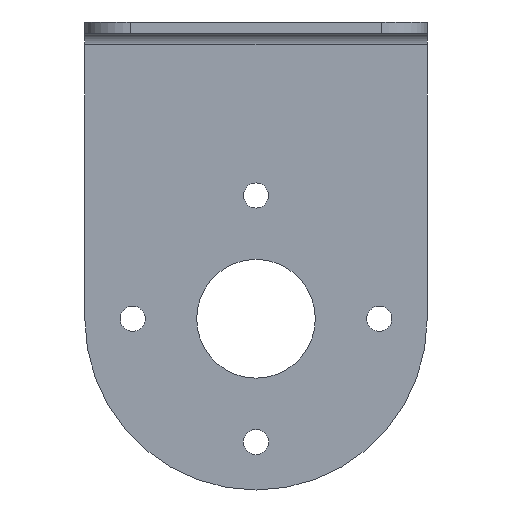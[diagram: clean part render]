
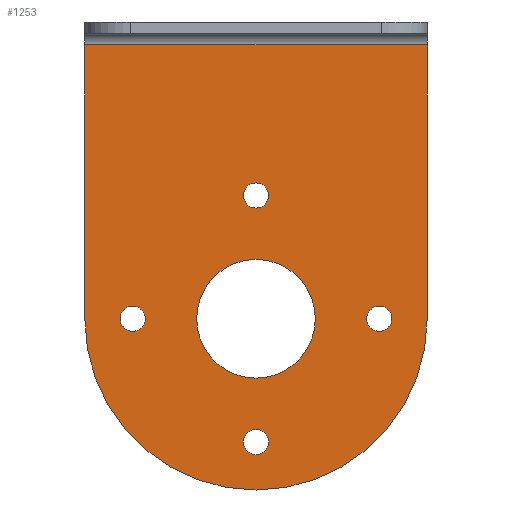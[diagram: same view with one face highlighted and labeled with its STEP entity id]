
A CAD part, front view. The second image highlights one B-rep face of the part: STEP entity #1253.
In plain terms, the highlighted planar face has unit normal (0, -1, 0).
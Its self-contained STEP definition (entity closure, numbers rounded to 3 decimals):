
#34 = LINE ( 'NONE', #1170, #172 ) ;
#48 = FACE_BOUND ( 'NONE', #1209, .T. ) ;
#57 = CIRCLE ( 'NONE', #414, 2.75 ) ;
#64 = VERTEX_POINT ( 'NONE', #397 ) ;
#68 = ORIENTED_EDGE ( 'NONE', *, *, #252, .T. ) ;
#95 = CARTESIAN_POINT ( 'NONE',  ( -27., 82.5, -62.25 ) ) ;
#99 = DIRECTION ( 'NONE',  ( 0., 0., 1. ) ) ;
#102 = CARTESIAN_POINT ( 'NONE',  ( 0., 82.5, -65. ) ) ;
#109 = DIRECTION ( 'NONE',  ( 0., 1., 0. ) ) ;
#112 = DIRECTION ( 'NONE',  ( 0., 0., 1. ) ) ;
#116 = DIRECTION ( 'NONE',  ( 0., 1., 0. ) ) ;
#125 = DIRECTION ( 'NONE',  ( 0., 0., 1. ) ) ;
#130 = DIRECTION ( 'NONE',  ( 0., 1., 0. ) ) ;
#135 = VERTEX_POINT ( 'NONE', #976 ) ;
#152 = DIRECTION ( 'NONE',  ( 0., 0., -1. ) ) ;
#167 = CARTESIAN_POINT ( 'NONE',  ( 0., 82.5, -89.25 ) ) ;
#172 = VECTOR ( 'NONE', #152, 1000. ) ;
#174 = EDGE_CURVE ( 'NONE', #1337, #1329, #227, .T. ) ;
#177 = EDGE_CURVE ( 'NONE', #1163, #1114, #1223, .T. ) ;
#223 = ORIENTED_EDGE ( 'NONE', *, *, #174, .F. ) ;
#227 = CIRCLE ( 'NONE', #1048, 37.5 ) ;
#228 = DIRECTION ( 'NONE',  ( 0., 0., 1. ) ) ;
#230 = CARTESIAN_POINT ( 'NONE',  ( 27., 82.5, -65. ) ) ;
#232 = AXIS2_PLACEMENT_3D ( 'NONE', #473, #1358, #112 ) ;
#240 = LINE ( 'NONE', #359, #1226 ) ;
#244 = CARTESIAN_POINT ( 'NONE',  ( 0., 82.5, -65. ) ) ;
#252 = EDGE_CURVE ( 'NONE', #1234, #64, #325, .T. ) ;
#276 = DIRECTION ( 'NONE',  ( 1., 0., 0. ) ) ;
#314 = EDGE_LOOP ( 'NONE', ( #1067, #68 ) ) ;
#321 = FACE_OUTER_BOUND ( 'NONE', #864, .T. ) ;
#325 = CIRCLE ( 'NONE', #603, 2.75 ) ;
#326 = AXIS2_PLACEMENT_3D ( 'NONE', #1133, #116, #1012 ) ;
#339 = VERTEX_POINT ( 'NONE', #1275 ) ;
#347 = CARTESIAN_POINT ( 'NONE',  ( 0., 82.5, -38. ) ) ;
#349 = CIRCLE ( 'NONE', #1264, 2.75 ) ;
#353 = CARTESIAN_POINT ( 'NONE',  ( -27., 82.5, -65. ) ) ;
#359 = CARTESIAN_POINT ( 'NONE',  ( -37.5, 82.5, -5. ) ) ;
#386 = CIRCLE ( 'NONE', #778, 2.75 ) ;
#397 = CARTESIAN_POINT ( 'NONE',  ( -27., 82.5, -67.75 ) ) ;
#410 = EDGE_CURVE ( 'NONE', #906, #1337, #34, .T. ) ;
#414 = AXIS2_PLACEMENT_3D ( 'NONE', #1340, #130, #581 ) ;
#415 = AXIS2_PLACEMENT_3D ( 'NONE', #102, #787, #729 ) ;
#424 = DIRECTION ( 'NONE',  ( 0., 0., 1. ) ) ;
#425 = CARTESIAN_POINT ( 'NONE',  ( 0., 82.5, -102.5 ) ) ;
#430 = DIRECTION ( 'NONE',  ( 0., 0., 1. ) ) ;
#450 = CARTESIAN_POINT ( 'NONE',  ( 0., 82.5, -94.75 ) ) ;
#473 = CARTESIAN_POINT ( 'NONE',  ( 0., 82.5, -38. ) ) ;
#516 = DIRECTION ( 'NONE',  ( 0., 1., 0. ) ) ;
#538 = CARTESIAN_POINT ( 'NONE',  ( 37.5, 82.5, -65. ) ) ;
#540 = CARTESIAN_POINT ( 'NONE',  ( 0., 82.5, -65. ) ) ;
#542 = ORIENTED_EDGE ( 'NONE', *, *, #973, .F. ) ;
#553 = DIRECTION ( 'NONE',  ( 0., 0., 1. ) ) ;
#557 = FACE_BOUND ( 'NONE', #314, .T. ) ;
#576 = EDGE_CURVE ( 'NONE', #135, #613, #1333, .T. ) ;
#581 = DIRECTION ( 'NONE',  ( 0., 0., 1. ) ) ;
#603 = AXIS2_PLACEMENT_3D ( 'NONE', #353, #920, #807 ) ;
#613 = VERTEX_POINT ( 'NONE', #794 ) ;
#625 = EDGE_CURVE ( 'NONE', #339, #1297, #1074, .T. ) ;
#642 = CARTESIAN_POINT ( 'NONE',  ( 0., 82.5, -40.75 ) ) ;
#649 = DIRECTION ( 'NONE',  ( 0., 1., 0. ) ) ;
#676 = DIRECTION ( 'NONE',  ( 0., 1., 0. ) ) ;
#688 = ORIENTED_EDGE ( 'NONE', *, *, #576, .F. ) ;
#690 = CARTESIAN_POINT ( 'NONE',  ( 37.5, 82.5, -5. ) ) ;
#703 = ORIENTED_EDGE ( 'NONE', *, *, #177, .T. ) ;
#719 = VECTOR ( 'NONE', #430, 1000. ) ;
#729 = DIRECTION ( 'NONE',  ( 0., 0., 1. ) ) ;
#730 = ORIENTED_EDGE ( 'NONE', *, *, #734, .T. ) ;
#734 = EDGE_CURVE ( 'NONE', #1297, #339, #1197, .T. ) ;
#740 = EDGE_CURVE ( 'NONE', #64, #1234, #349, .T. ) ;
#756 = EDGE_LOOP ( 'NONE', ( #930, #855 ) ) ;
#767 = ORIENTED_EDGE ( 'NONE', *, *, #872, .T. ) ;
#775 = CIRCLE ( 'NONE', #1249, 37.5 ) ;
#778 = AXIS2_PLACEMENT_3D ( 'NONE', #1102, #516, #970 ) ;
#787 = DIRECTION ( 'NONE',  ( 0., 1., 0. ) ) ;
#791 = EDGE_LOOP ( 'NONE', ( #703, #767 ) ) ;
#794 = CARTESIAN_POINT ( 'NONE',  ( -37.5, 82.5, -5. ) ) ;
#807 = DIRECTION ( 'NONE',  ( 0., 0., 1. ) ) ;
#821 = CIRCLE ( 'NONE', #1134, 2.75 ) ;
#835 = ORIENTED_EDGE ( 'NONE', *, *, #1441, .T. ) ;
#855 = ORIENTED_EDGE ( 'NONE', *, *, #904, .T. ) ;
#864 = EDGE_LOOP ( 'NONE', ( #542, #688, #1185, #223, #961 ) ) ;
#867 = CIRCLE ( 'NONE', #232, 2.75 ) ;
#870 = AXIS2_PLACEMENT_3D ( 'NONE', #230, #109, #99 ) ;
#872 = EDGE_CURVE ( 'NONE', #1114, #1163, #867, .T. ) ;
#880 = EDGE_CURVE ( 'NONE', #1329, #135, #775, .T. ) ;
#896 = PLANE ( 'NONE',  #415 ) ;
#898 = CARTESIAN_POINT ( 'NONE',  ( -37.5, 82.5, -2.5 ) ) ;
#904 = EDGE_CURVE ( 'NONE', #1187, #1444, #57, .T. ) ;
#905 = FACE_BOUND ( 'NONE', #791, .T. ) ;
#906 = VERTEX_POINT ( 'NONE', #690 ) ;
#920 = DIRECTION ( 'NONE',  ( 0., 1., 0. ) ) ;
#930 = ORIENTED_EDGE ( 'NONE', *, *, #1177, .T. ) ;
#952 = AXIS2_PLACEMENT_3D ( 'NONE', #347, #676, #553 ) ;
#961 = ORIENTED_EDGE ( 'NONE', *, *, #410, .F. ) ;
#965 = DIRECTION ( 'NONE',  ( 0., 0., 1. ) ) ;
#970 = DIRECTION ( 'NONE',  ( 0., 0., 1. ) ) ;
#973 = EDGE_CURVE ( 'NONE', #613, #906, #240, .T. ) ;
#976 = CARTESIAN_POINT ( 'NONE',  ( -37.5, 82.5, -65. ) ) ;
#977 = CARTESIAN_POINT ( 'NONE',  ( 27., 82.5, -67.75 ) ) ;
#979 = CARTESIAN_POINT ( 'NONE',  ( 0., 82.5, -78. ) ) ;
#991 = DIRECTION ( 'NONE',  ( 0., 1., 0. ) ) ;
#1012 = DIRECTION ( 'NONE',  ( 0., 0., 1. ) ) ;
#1014 = CIRCLE ( 'NONE', #870, 2.75 ) ;
#1046 = CARTESIAN_POINT ( 'NONE',  ( 0., 82.5, -35.25 ) ) ;
#1048 = AXIS2_PLACEMENT_3D ( 'NONE', #1238, #1369, #228 ) ;
#1067 = ORIENTED_EDGE ( 'NONE', *, *, #740, .T. ) ;
#1074 = CIRCLE ( 'NONE', #326, 13. ) ;
#1088 = ORIENTED_EDGE ( 'NONE', *, *, #625, .T. ) ;
#1102 = CARTESIAN_POINT ( 'NONE',  ( 27., 82.5, -65. ) ) ;
#1114 = VERTEX_POINT ( 'NONE', #1046 ) ;
#1122 = DIRECTION ( 'NONE',  ( 0., 1., 0. ) ) ;
#1128 = VERTEX_POINT ( 'NONE', #977 ) ;
#1133 = CARTESIAN_POINT ( 'NONE',  ( 0., 82.5, -65. ) ) ;
#1134 = AXIS2_PLACEMENT_3D ( 'NONE', #1412, #649, #424 ) ;
#1163 = VERTEX_POINT ( 'NONE', #642 ) ;
#1170 = CARTESIAN_POINT ( 'NONE',  ( 37.5, 82.5, -65. ) ) ;
#1177 = EDGE_CURVE ( 'NONE', #1444, #1187, #821, .T. ) ;
#1185 = ORIENTED_EDGE ( 'NONE', *, *, #880, .F. ) ;
#1187 = VERTEX_POINT ( 'NONE', #167 ) ;
#1197 = CIRCLE ( 'NONE', #1309, 13. ) ;
#1201 = DIRECTION ( 'NONE',  ( 0., 0., 1. ) ) ;
#1209 = EDGE_LOOP ( 'NONE', ( #730, #1088 ) ) ;
#1218 = DIRECTION ( 'NONE',  ( 0., 1., 0. ) ) ;
#1223 = CIRCLE ( 'NONE', #952, 2.75 ) ;
#1226 = VECTOR ( 'NONE', #276, 1000. ) ;
#1234 = VERTEX_POINT ( 'NONE', #95 ) ;
#1238 = CARTESIAN_POINT ( 'NONE',  ( 0., 82.5, -65. ) ) ;
#1242 = VERTEX_POINT ( 'NONE', #1454 ) ;
#1249 = AXIS2_PLACEMENT_3D ( 'NONE', #244, #1122, #125 ) ;
#1253 = ADVANCED_FACE ( 'NONE', ( #1331, #905, #557, #1352, #48, #321 ), #896, .F. ) ;
#1264 = AXIS2_PLACEMENT_3D ( 'NONE', #1426, #991, #1201 ) ;
#1275 = CARTESIAN_POINT ( 'NONE',  ( 0., 82.5, -52. ) ) ;
#1297 = VERTEX_POINT ( 'NONE', #979 ) ;
#1301 = EDGE_LOOP ( 'NONE', ( #835, #1399 ) ) ;
#1303 = EDGE_CURVE ( 'NONE', #1242, #1128, #386, .T. ) ;
#1309 = AXIS2_PLACEMENT_3D ( 'NONE', #540, #1218, #965 ) ;
#1329 = VERTEX_POINT ( 'NONE', #425 ) ;
#1331 = FACE_BOUND ( 'NONE', #756, .T. ) ;
#1333 = LINE ( 'NONE', #898, #719 ) ;
#1337 = VERTEX_POINT ( 'NONE', #538 ) ;
#1340 = CARTESIAN_POINT ( 'NONE',  ( 0., 82.5, -92. ) ) ;
#1352 = FACE_BOUND ( 'NONE', #1301, .T. ) ;
#1358 = DIRECTION ( 'NONE',  ( 0., 1., 0. ) ) ;
#1369 = DIRECTION ( 'NONE',  ( 0., 1., 0. ) ) ;
#1399 = ORIENTED_EDGE ( 'NONE', *, *, #1303, .T. ) ;
#1412 = CARTESIAN_POINT ( 'NONE',  ( 0., 82.5, -92. ) ) ;
#1426 = CARTESIAN_POINT ( 'NONE',  ( -27., 82.5, -65. ) ) ;
#1441 = EDGE_CURVE ( 'NONE', #1128, #1242, #1014, .T. ) ;
#1444 = VERTEX_POINT ( 'NONE', #450 ) ;
#1454 = CARTESIAN_POINT ( 'NONE',  ( 27., 82.5, -62.25 ) ) ;
